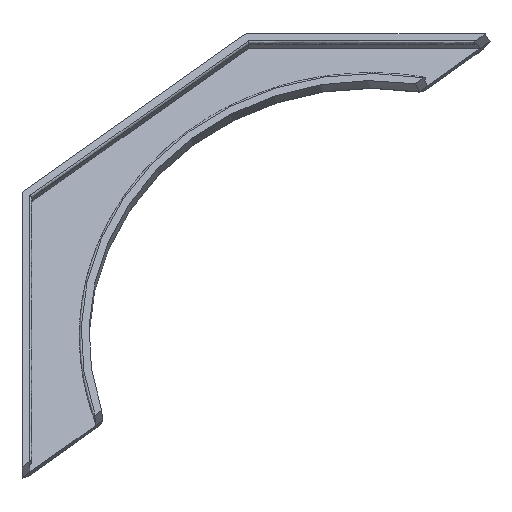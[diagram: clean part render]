
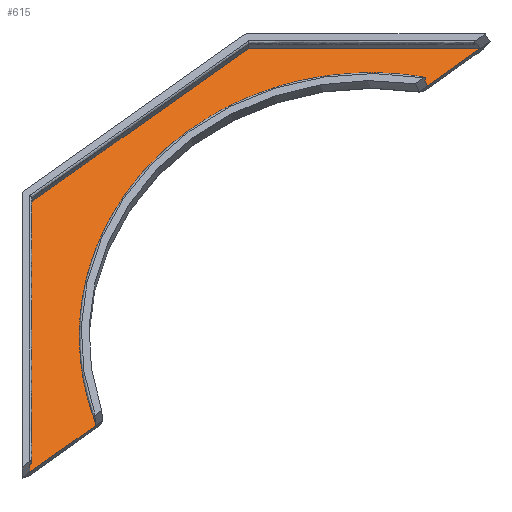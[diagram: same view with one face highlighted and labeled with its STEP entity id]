
A CAD part, front view. The second image highlights one B-rep face of the part: STEP entity #615.
In plain terms, the highlighted planar face has unit normal (0, -0.901, 0.435).
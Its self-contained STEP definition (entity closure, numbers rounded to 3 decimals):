
#14=DIRECTION('',(-0.786,-0.269,-0.557));
#15=VECTOR('',#14,11.543);
#16=CARTESIAN_POINT('',(80.546,61.7,-46.411));
#17=LINE('',#16,#15);
#18=CARTESIAN_POINT('',(61.854,37.342,-96.891));
#19=DIRECTION('',(0.,-0.901,0.435));
#20=DIRECTION('',(0.193,0.426,0.884));
#21=AXIS2_PLACEMENT_3D('',#18,#19,#20);
#23=DIRECTION('',(-0.786,-0.269,-0.557));
#24=VECTOR('',#23,14.471);
#25=CARTESIAN_POINT('',(14.578,30.472,-111.131));
#26=LINE('',#25,#24);
#109=DIRECTION('',(-1.,0.,0.));
#110=VECTOR('',#109,39.828);
#111=CARTESIAN_POINT('',(80.546,61.7,-46.411));
#112=LINE('',#111,#110);
#129=DIRECTION('',(-0.786,-0.269,-0.557));
#130=VECTOR('',#129,47.724);
#131=CARTESIAN_POINT('',(40.717,61.7,-46.411));
#132=LINE('',#131,#130);
#141=DIRECTION('',(0.,-0.435,-0.901));
#142=VECTOR('',#141,51.305);
#143=CARTESIAN_POINT('',(3.204,48.879,-72.981));
#144=LINE('',#143,#142);
#357=CARTESIAN_POINT('',(14.578,30.472,-111.131));
#365=CARTESIAN_POINT('',(71.473,58.599,-52.838));
#507=CARTESIAN_POINT('',(40.717,61.7,-46.411));
#508=CARTESIAN_POINT('',(3.204,48.879,-72.981));
#509=VERTEX_POINT('',#507);
#510=VERTEX_POINT('',#508);
#519=VERTEX_POINT('',#357);
#526=CARTESIAN_POINT('',(3.204,26.584,-119.189));
#527=VERTEX_POINT('',#526);
#532=VERTEX_POINT('',#365);
#535=CARTESIAN_POINT('',(80.546,61.7,-46.411));
#537=VERTEX_POINT('',#535);
#596=CARTESIAN_POINT('',(0.,68.213,-32.914));
#597=DIRECTION('',(0.,0.901,-0.435));
#598=DIRECTION('',(-1.,0.,0.));
#599=AXIS2_PLACEMENT_3D('',#596,#597,#598);
#600=PLANE('',#599);
#602=ORIENTED_EDGE('',*,*,#601,.T.);
#604=ORIENTED_EDGE('',*,*,#603,.T.);
#606=ORIENTED_EDGE('',*,*,#605,.T.);
#608=ORIENTED_EDGE('',*,*,#607,.F.);
#610=ORIENTED_EDGE('',*,*,#609,.F.);
#612=ORIENTED_EDGE('',*,*,#611,.F.);
#613=EDGE_LOOP('',(#602,#604,#606,#608,#610,#612));
#614=FACE_OUTER_BOUND('',#613,.F.);
#22=CIRCLE('',#21,49.85);
#601=EDGE_CURVE('',#537,#532,#17,.T.);
#603=EDGE_CURVE('',#532,#519,#22,.T.);
#605=EDGE_CURVE('',#519,#527,#26,.T.);
#607=EDGE_CURVE('',#510,#527,#144,.T.);
#609=EDGE_CURVE('',#509,#510,#132,.T.);
#611=EDGE_CURVE('',#537,#509,#112,.T.);
#615=ADVANCED_FACE('',(#614),#600,.F.);
